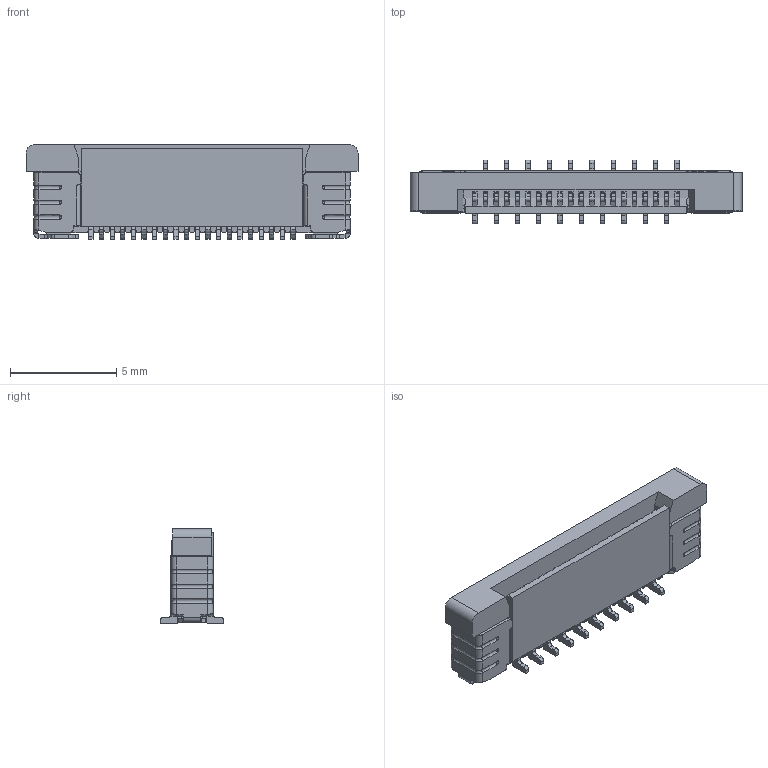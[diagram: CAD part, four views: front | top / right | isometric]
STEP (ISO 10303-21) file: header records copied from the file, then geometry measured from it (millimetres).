
FILE_DESCRIPTION (( 'STEP AP203' ), '1' );
FILE_NAME ('GT-F0504SV45-XXSMT01.STEP', '2023-12-27T07:51:44', ( 'Microsoft' ), ( 'Microsoft' ), 'SwSTEP 2.0', 'SolidWorks 2023', '' );
FILE_SCHEMA (( 'CONFIG_CONTROL_DESIGN' ));
Products named in the file (1): GT-F0504SV45-XXSMT01
Bounding box: 15.6 x 3 x 4.46 mm (x, y, z)
Surface area: 704.8 mm2 (no closed solid volume)
Topology: 0 solids, 146 shells, 2566 faces, 8224 edges, 5698 vertices
Faces by surface type: plane 1474, cylinder 902, bspline 190
Entity records: 103956 total; most frequent: CARTESIAN_POINT 44288, ORIENTED_EDGE 14920, EDGE_CURVE 8224, DIRECTION 7318, B_SPLINE_CURVE_WITH_KNOTS 5833, VERTEX_POINT 5698, EDGE_LOOP 2592, FACE_OUTER_BOUND 2566
